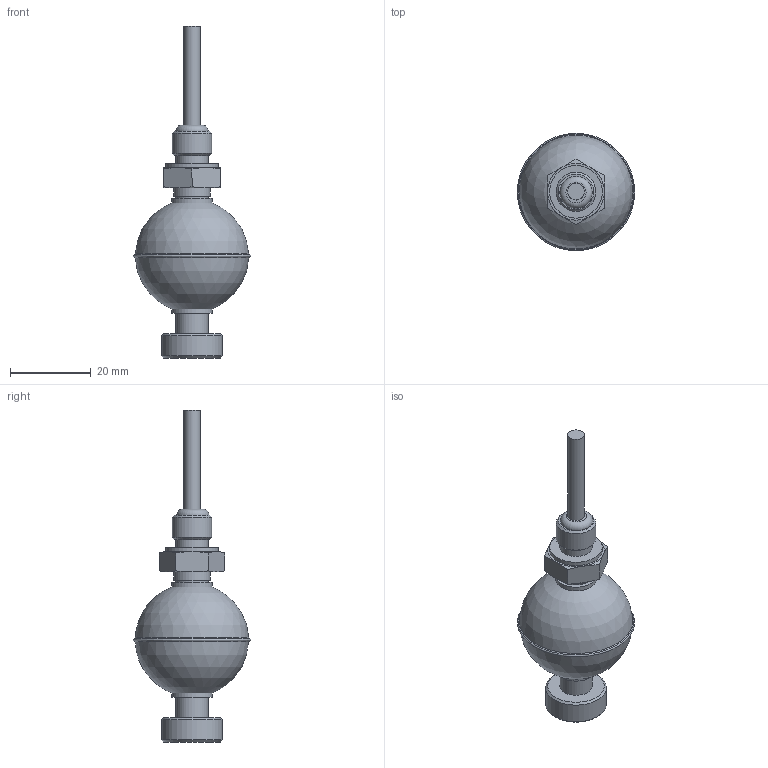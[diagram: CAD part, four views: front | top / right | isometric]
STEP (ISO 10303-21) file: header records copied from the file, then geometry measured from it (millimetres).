
FILE_DESCRIPTION(/* description */ ('Katalogmodell Elobau'),/* implementation_level */ '2;1');
FILE_NAME(/* name */ '20341103_D.stp',/* time_stamp */ '2014-09-26T09:28:49+02:00',/* author */ ('Elobau GmbH & Co. KG'),/* organization */ ('Elobau GmbH & Co. KG'),/* preprocessor_version */ 'ST-DEVELOPER v15',/* originating_system */ 'SIEMENS PLM Software NX 8.5',/* authorisation */ '');
FILE_SCHEMA (('AUTOMOTIVE_DESIGN { 1 0 10303 214 3 1 1 1 }'));
Length unit declared in the file: millimetre
Products named in the file (1): 20341103_D
Bounding box: 29 x 29 x 82 mm (x, y, z)
Volume: 14981.8 mm3; surface area: 4399.5 mm2
Topology: 1 solids, 1 shells, 50 faces, 94 edges, 56 vertices
Faces by surface type: plane 18, cone 16, cylinder 10, torus 4, sphere 2
Full cylindrical faces by diameter (mm): 4.1 x1, 8 x3, 9 x1, 9.728 x1, 10 x2, 13 x1, 15 x1
Entity records: 1473 total; most frequent: CARTESIAN_POINT 225, DIRECTION 192, ORIENTED_EDGE 144, AXIS2_PLACEMENT_3D 93, EDGE_LOOP 80, EDGE_CURVE 72, FACE_BOUND 60, VERTEX_POINT 54
